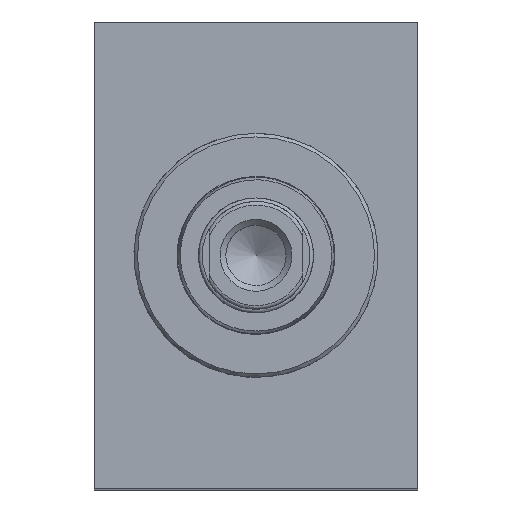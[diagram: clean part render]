
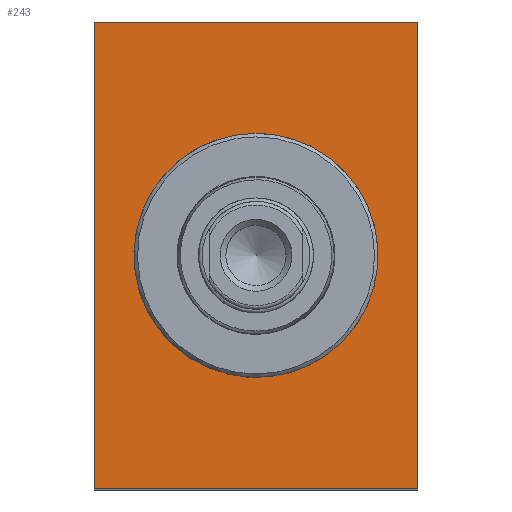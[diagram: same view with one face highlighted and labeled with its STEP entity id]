
A CAD part, top view. The second image highlights one B-rep face of the part: STEP entity #243.
In plain terms, the highlighted planar face has unit normal (0, 0, 1) as drawn and (-1, 0, 0) by its records, which use the part's own axes.
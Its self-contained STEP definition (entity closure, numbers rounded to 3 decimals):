
#243 = ADVANCED_FACE( '', ( #305, #306 ), #307, .F. );
#305 = FACE_OUTER_BOUND( '', #475, .T. );
#306 = FACE_BOUND( '', #476, .T. );
#307 = PLANE( '', #477 );
#475 = EDGE_LOOP( '', ( #644, #645, #646, #647 ) );
#476 = EDGE_LOOP( '', ( #648 ) );
#477 = AXIS2_PLACEMENT_3D( '', #649, #650, #651 );
#644 = ORIENTED_EDGE( '', *, *, #1001, .F. );
#645 = ORIENTED_EDGE( '', *, *, #1002, .F. );
#646 = ORIENTED_EDGE( '', *, *, #1003, .F. );
#647 = ORIENTED_EDGE( '', *, *, #1004, .F. );
#648 = ORIENTED_EDGE( '', *, *, #1005, .T. );
#649 = CARTESIAN_POINT( '', ( 0., 0., 0. ) );
#650 = DIRECTION( '', ( 1., 0., 0. ) );
#651 = DIRECTION( '', ( 0., 0., -1. ) );
#1001 = EDGE_CURVE( '', #1090, #1091, #1092, .T. );
#1002 = EDGE_CURVE( '', #1093, #1090, #1094, .T. );
#1003 = EDGE_CURVE( '', #1095, #1093, #1096, .T. );
#1004 = EDGE_CURVE( '', #1091, #1095, #1097, .T. );
#1005 = EDGE_CURVE( '', #1098, #1098, #1099, .F. );
#1090 = VERTEX_POINT( '', #1250 );
#1091 = VERTEX_POINT( '', #1251 );
#1092 = LINE( '', #1252, #1253 );
#1093 = VERTEX_POINT( '', #1254 );
#1094 = LINE( '', #1255, #1256 );
#1095 = VERTEX_POINT( '', #1257 );
#1096 = LINE( '', #1258, #1259 );
#1097 = LINE( '', #1260, #1261 );
#1098 = VERTEX_POINT( '', #1262 );
#1099 = B_SPLINE_CURVE_WITH_KNOTS( '', 3, ( #1263, #1264, #1265, #1266, #1267, #1268, #1269, #1270, #1271, #1272, #1273, #1274, #1275, #1276, #1277, #1278, #1279, #1280, #1281, #1282, #1283, #1284, #1285, #1286, #1287, #1288, #1289, #1290, #1291, #1292, #1293, #1294, #1295, #1296, #1297 ), .UNSPECIFIED., .T., .F., ( 2, 1, 1, 1, 1, 1, 1, 1, 1, 1, 1, 1, 1, 1, 1, 1, 1, 1, 1, 1, 1, 1, 1, 1, 1, 1, 1, 1, 1, 1, 1, 1, 1, 1, 1, 1, 2 ), ( -0.062, -0.031, 0., 0.031, 0.063, 0.094, 0.125, 0.156, 0.188, 0.219, 0.25, 0.281, 0.313, 0.344, 0.375, 0.406, 0.438, 0.469, 0.5, 0.531, 0.563, 0.594, 0.625, 0.656, 0.688, 0.719, 0.75, 0.781, 0.813, 0.844, 0.875, 0.906, 0.938, 0.969, 1., 1.031, 1.063 ), .UNSPECIFIED. );
#1250 = CARTESIAN_POINT( '', ( 0., 32.5, 22.5 ) );
#1251 = CARTESIAN_POINT( '', ( 0., -32.5, 22.5 ) );
#1252 = CARTESIAN_POINT( '', ( 0., 32.5, 22.5 ) );
#1253 = VECTOR( '', #3179, 1000. );
#1254 = CARTESIAN_POINT( '', ( 0., 32.5, -22.5 ) );
#1255 = CARTESIAN_POINT( '', ( 0., 32.5, -22.5 ) );
#1256 = VECTOR( '', #3180, 1000. );
#1257 = CARTESIAN_POINT( '', ( 0., -32.5, -22.5 ) );
#1258 = CARTESIAN_POINT( '', ( 0., -32.5, -22.5 ) );
#1259 = VECTOR( '', #3181, 1000. );
#1260 = CARTESIAN_POINT( '', ( 0., -32.5, 22.5 ) );
#1261 = VECTOR( '', #3182, 1000. );
#1262 = CARTESIAN_POINT( '', ( 0., 17., 0. ) );
#1263 = CARTESIAN_POINT( '', ( 0., 16.781, 3.338 ) );
#1264 = CARTESIAN_POINT( '', ( 0., 17.11, 0. ) );
#1265 = CARTESIAN_POINT( '', ( 0., 16.781, -3.338 ) );
#1266 = CARTESIAN_POINT( '', ( 0., 15.807, -6.548 ) );
#1267 = CARTESIAN_POINT( '', ( 0., 14.226, -9.506 ) );
#1268 = CARTESIAN_POINT( '', ( 0., 12.098, -12.098 ) );
#1269 = CARTESIAN_POINT( '', ( 0., 9.506, -14.226 ) );
#1270 = CARTESIAN_POINT( '', ( 0., 6.548, -15.807 ) );
#1271 = CARTESIAN_POINT( '', ( 0., 3.338, -16.781 ) );
#1272 = CARTESIAN_POINT( '', ( 0., 0., -17.11 ) );
#1273 = CARTESIAN_POINT( '', ( 0., -3.338, -16.781 ) );
#1274 = CARTESIAN_POINT( '', ( 0., -6.548, -15.807 ) );
#1275 = CARTESIAN_POINT( '', ( 0., -9.506, -14.226 ) );
#1276 = CARTESIAN_POINT( '', ( 0., -12.098, -12.098 ) );
#1277 = CARTESIAN_POINT( '', ( 0., -14.226, -9.506 ) );
#1278 = CARTESIAN_POINT( '', ( 0., -15.807, -6.548 ) );
#1279 = CARTESIAN_POINT( '', ( 0., -16.781, -3.338 ) );
#1280 = CARTESIAN_POINT( '', ( 0., -17.11, 0. ) );
#1281 = CARTESIAN_POINT( '', ( 0., -16.781, 3.338 ) );
#1282 = CARTESIAN_POINT( '', ( 0., -15.807, 6.548 ) );
#1283 = CARTESIAN_POINT( '', ( 0., -14.226, 9.506 ) );
#1284 = CARTESIAN_POINT( '', ( 0., -12.098, 12.098 ) );
#1285 = CARTESIAN_POINT( '', ( 0., -9.506, 14.226 ) );
#1286 = CARTESIAN_POINT( '', ( 0., -6.548, 15.807 ) );
#1287 = CARTESIAN_POINT( '', ( 0., -3.338, 16.781 ) );
#1288 = CARTESIAN_POINT( '', ( 0., 0., 17.11 ) );
#1289 = CARTESIAN_POINT( '', ( 0., 3.338, 16.781 ) );
#1290 = CARTESIAN_POINT( '', ( 0., 6.548, 15.807 ) );
#1291 = CARTESIAN_POINT( '', ( 0., 9.506, 14.226 ) );
#1292 = CARTESIAN_POINT( '', ( 0., 12.098, 12.098 ) );
#1293 = CARTESIAN_POINT( '', ( 0., 14.226, 9.506 ) );
#1294 = CARTESIAN_POINT( '', ( 0., 15.807, 6.548 ) );
#1295 = CARTESIAN_POINT( '', ( 0., 16.781, 3.338 ) );
#1296 = CARTESIAN_POINT( '', ( 0., 17.11, 0. ) );
#1297 = CARTESIAN_POINT( '', ( 0., 16.781, -3.338 ) );
#3179 = DIRECTION( '', ( 0., -1., 0. ) );
#3180 = DIRECTION( '', ( 0., 0., 1. ) );
#3181 = DIRECTION( '', ( 0., 1., 0. ) );
#3182 = DIRECTION( '', ( 0., 0., -1. ) );
